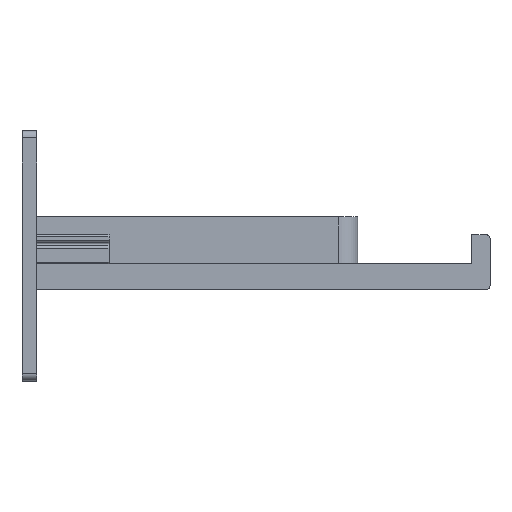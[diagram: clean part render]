
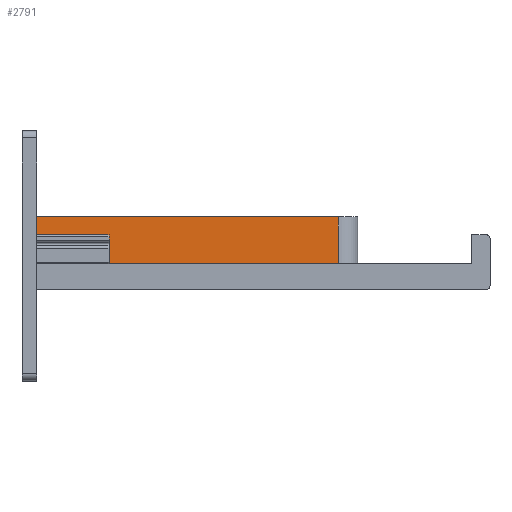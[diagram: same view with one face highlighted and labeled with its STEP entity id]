
A CAD part, top view. The second image highlights one B-rep face of the part: STEP entity #2791.
In plain terms, the highlighted planar face has unit normal (0, 0, 1).
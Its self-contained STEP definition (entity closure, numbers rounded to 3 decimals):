
#111=PLANE('',#2996);
#230=FACE_OUTER_BOUND('',#392,.T.);
#392=EDGE_LOOP('',(#2296,#2297,#2298,#2299,#2300,#2301,#2302));
#491=LINE('',#3924,#821);
#695=LINE('',#4405,#1025);
#700=LINE('',#4414,#1030);
#703=LINE('',#4420,#1033);
#704=LINE('',#4422,#1034);
#705=LINE('',#4424,#1035);
#706=LINE('',#4425,#1036);
#821=VECTOR('',#3141,10.);
#1025=VECTOR('',#3557,10.);
#1030=VECTOR('',#3564,10.);
#1033=VECTOR('',#3571,10.);
#1034=VECTOR('',#3572,10.);
#1035=VECTOR('',#3573,10.);
#1036=VECTOR('',#3574,10.);
#1235=VERTEX_POINT('',#3921);
#1236=VERTEX_POINT('',#3923);
#1407=VERTEX_POINT('',#4403);
#1410=VERTEX_POINT('',#4412);
#1411=VERTEX_POINT('',#4419);
#1412=VERTEX_POINT('',#4421);
#1413=VERTEX_POINT('',#4423);
#1504=EDGE_CURVE('',#1235,#1236,#491,.T.);
#1741=EDGE_CURVE('',#1235,#1407,#695,.T.);
#1746=EDGE_CURVE('',#1407,#1410,#700,.T.);
#1749=EDGE_CURVE('',#1411,#1410,#703,.T.);
#1750=EDGE_CURVE('',#1412,#1411,#704,.T.);
#1751=EDGE_CURVE('',#1413,#1412,#705,.T.);
#1752=EDGE_CURVE('',#1413,#1236,#706,.T.);
#2296=ORIENTED_EDGE('',*,*,#1741,.T.);
#2297=ORIENTED_EDGE('',*,*,#1746,.T.);
#2298=ORIENTED_EDGE('',*,*,#1749,.F.);
#2299=ORIENTED_EDGE('',*,*,#1750,.F.);
#2300=ORIENTED_EDGE('',*,*,#1751,.F.);
#2301=ORIENTED_EDGE('',*,*,#1752,.T.);
#2302=ORIENTED_EDGE('',*,*,#1504,.F.);
#2791=ADVANCED_FACE('',(#230),#111,.T.);
#2996=AXIS2_PLACEMENT_3D('',#4418,#3569,#3570);
#3141=DIRECTION('',(0.,1.,0.));
#3557=DIRECTION('',(1.,0.,0.));
#3564=DIRECTION('',(0.,-1.,0.));
#3569=DIRECTION('center_axis',(0.,0.,
1.));
#3570=DIRECTION('ref_axis',(-1.,0.,0.));
#3571=DIRECTION('',(-1.,0.,0.));
#3572=DIRECTION('',(0.,-1.,0.));
#3573=DIRECTION('',(0.,-1.,0.));
#3574=DIRECTION('',(-1.,0.,0.));
#3921=CARTESIAN_POINT('',(-43.297,32.68,19.6));
#3923=CARTESIAN_POINT('',(-43.297,45.68,19.6));
#3924=CARTESIAN_POINT('',(-43.297,39.54,19.6));
#4403=CARTESIAN_POINT('',(39.703,32.68,19.6));
#4405=CARTESIAN_POINT('',(-1.65,32.68,19.6));
#4412=CARTESIAN_POINT('',(39.703,25.68,19.6));
#4414=CARTESIAN_POINT('',(39.703,37.43,19.6));
#4418=CARTESIAN_POINT('Origin',(39.998,45.68,19.6));
#4419=CARTESIAN_POINT('',(39.998,25.68,19.6));
#4420=CARTESIAN_POINT('',(-43.297,25.68,19.6));
#4421=CARTESIAN_POINT('',(39.998,30.4,19.6));
#4422=CARTESIAN_POINT('',(39.998,30.4,19.6));
#4423=CARTESIAN_POINT('',(39.998,45.68,19.6));
#4424=CARTESIAN_POINT('',(39.998,45.68,19.6));
#4425=CARTESIAN_POINT('',(-37.997,45.68,19.6));
